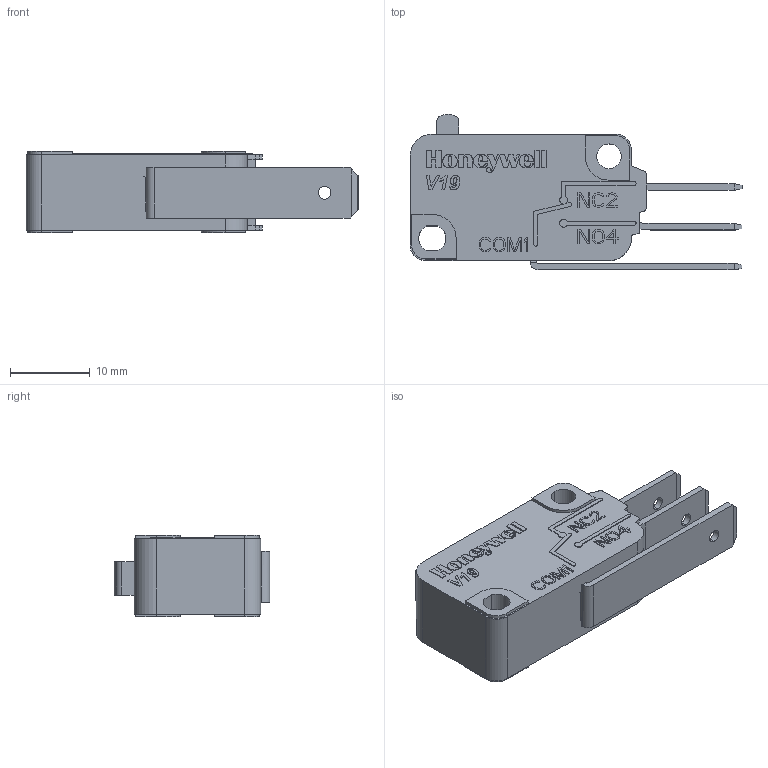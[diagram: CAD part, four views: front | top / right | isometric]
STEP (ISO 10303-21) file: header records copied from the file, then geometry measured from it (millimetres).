
FILE_DESCRIPTION((''),'2;1');
FILE_NAME('V19S05-HZ015','2020-06-15T13:08:54',('H252115'),(''),'CREO PARAMETRIC BY PTC INC, 2017380','CREO PARAMETRIC BY PTC INC, 2017380','');
FILE_SCHEMA(('CONFIG_CONTROL_DESIGN'));
Length unit declared in the file: millimetre
Products named in the file (1): V19S05-HZ015
Bounding box: 41.7 x 19.55 x 10.2 mm (x, y, z)
Volume: 4314.8 mm3; surface area: 2818.5 mm2
Topology: 1 solids, 1 shells, 673 faces, 1916 edges, 1279 vertices
Faces by surface type: plane 507, extrusion 101, cylinder 63, bspline 2
Entity records: 24190 total; most frequent: CARTESIAN_POINT 6828, ORIENTED_EDGE 3832, DIRECTION 3097, EDGE_CURVE 1916, VECTOR 1665, LINE 1564, VERTEX_POINT 1279, EDGE_LOOP 725
